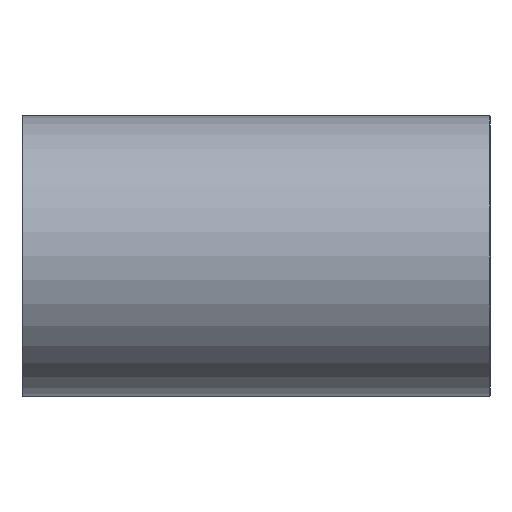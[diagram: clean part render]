
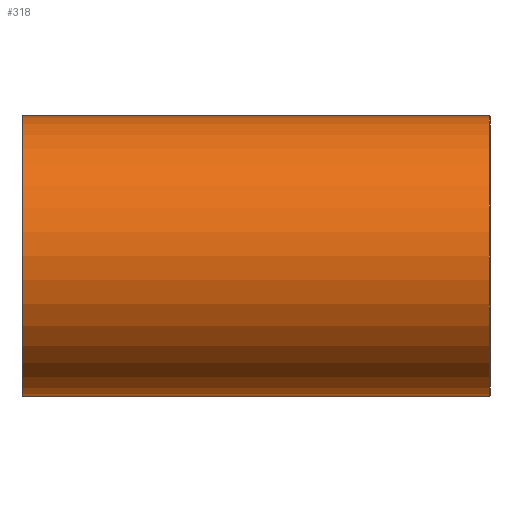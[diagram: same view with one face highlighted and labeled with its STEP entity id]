
A CAD part, front view. The second image highlights one B-rep face of the part: STEP entity #318.
In plain terms, the highlighted cylindrical face has radius 30.275 mm (diameter 60.55 mm), a full revolution.
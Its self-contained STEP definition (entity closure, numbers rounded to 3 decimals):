
#193=CARTESIAN_POINT('',(50.3,30.275,0.));
#194=VERTEX_POINT('',#193);
#195=CARTESIAN_POINT('',(50.3,0.0,0.0));
#196=DIRECTION('',(1.0,0.0,0.0));
#197=DIRECTION('',(0.0,-1.0,0.0));
#198=AXIS2_PLACEMENT_3D('',#195,#196,#197);
#199=CIRCLE('',#198,30.275);
#200=EDGE_CURVE('',#194,#194,#199,.T.);
#236=CARTESIAN_POINT('',(0.0,0.0,0.0));
#237=DIRECTION('',(1.0,0.0,0.0));
#238=DIRECTION('',(0.0,1.0,0.0));
#239=AXIS2_PLACEMENT_3D('',#236,#237,#238);
#240=CYLINDRICAL_SURFACE('',#239,30.275);
#241=CARTESIAN_POINT('',(-50.3,30.275,0.));
#242=VERTEX_POINT('',#241);
#243=CARTESIAN_POINT('',(-50.3,0.0,0.0));
#244=DIRECTION('',(-1.0,0.0,0.0));
#245=DIRECTION('',(0.0,-1.0,0.0));
#246=AXIS2_PLACEMENT_3D('',#243,#244,#245);
#247=CIRCLE('',#246,30.275);
#248=EDGE_CURVE('',#242,#242,#247,.T.);
#249=ORIENTED_EDGE('',*,*,#248,.F.);
#250=EDGE_LOOP('',(#249));
#251=FACE_OUTER_BOUND('',#250,.T.);
#252=CARTESIAN_POINT('',(0.,28.651,9.781));
#253=VERTEX_POINT('',#252);
#254=CARTESIAN_POINT('',(0.,28.651,9.781));
#255=CARTESIAN_POINT('',(0.,28.651,9.781));
#256=CARTESIAN_POINT('',(0.,28.651,9.781));
#257=CARTESIAN_POINT('',(0.,28.651,9.781));
#258=CARTESIAN_POINT('',(0.21,28.651,9.781));
#259=CARTESIAN_POINT('',(1.053,28.658,9.761));
#260=CARTESIAN_POINT('',(2.317,28.712,9.604));
#261=CARTESIAN_POINT('',(3.727,28.829,9.249));
#262=CARTESIAN_POINT('',(4.6,28.928,8.933));
#263=CARTESIAN_POINT('',(5.35,29.026,8.607));
#264=CARTESIAN_POINT('',(6.076,29.132,8.246));
#265=CARTESIAN_POINT('',(7.35,29.348,7.46));
#266=CARTESIAN_POINT('',(8.324,29.55,6.616));
#267=CARTESIAN_POINT('',(9.092,29.724,5.755));
#268=CARTESIAN_POINT('',(9.566,29.836,5.16));
#269=CARTESIAN_POINT('',(10.128,29.976,4.281));
#270=CARTESIAN_POINT('',(10.495,30.073,3.517));
#271=CARTESIAN_POINT('',(10.764,30.145,2.821));
#272=CARTESIAN_POINT('',(11.099,30.236,1.766));
#273=CARTESIAN_POINT('',(11.283,30.289,0.38));
#274=CARTESIAN_POINT('',(11.188,30.262,-1.097));
#275=CARTESIAN_POINT('',(10.907,30.184,-2.54));
#276=CARTESIAN_POINT('',(10.388,30.043,-3.829));
#277=CARTESIAN_POINT('',(9.604,29.845,-5.115));
#278=CARTESIAN_POINT('',(8.82,29.658,-6.118));
#279=CARTESIAN_POINT('',(7.673,29.414,-7.194));
#280=CARTESIAN_POINT('',(6.374,29.176,-8.098));
#281=CARTESIAN_POINT('',(4.918,28.96,-8.835));
#282=CARTESIAN_POINT('',(3.348,28.788,-9.375));
#283=CARTESIAN_POINT('',(1.708,28.678,-9.705));
#284=CARTESIAN_POINT('',(0.002,28.639,-9.818));
#285=CARTESIAN_POINT('',(-1.679,28.676,-9.708));
#286=CARTESIAN_POINT('',(-3.335,28.787,-9.379));
#287=CARTESIAN_POINT('',(-4.647,28.93,-8.928));
#288=CARTESIAN_POINT('',(-5.628,29.065,-8.476));
#289=CARTESIAN_POINT('',(-6.574,29.213,-7.958));
#290=CARTESIAN_POINT('',(-7.451,29.373,-7.349));
#291=CARTESIAN_POINT('',(-8.239,29.534,-6.663));
#292=CARTESIAN_POINT('',(-8.962,29.692,-5.933));
#293=CARTESIAN_POINT('',(-9.754,29.881,-4.927));
#294=CARTESIAN_POINT('',(-10.489,30.07,-3.604));
#295=CARTESIAN_POINT('',(-10.988,30.206,-2.208));
#296=CARTESIAN_POINT('',(-11.203,30.266,-0.984));
#297=CARTESIAN_POINT('',(-11.245,30.278,-0.001));
#298=CARTESIAN_POINT('',(-11.204,30.266,0.975));
#299=CARTESIAN_POINT('',(-10.993,30.207,2.195));
#300=CARTESIAN_POINT('',(-10.489,30.07,3.606));
#301=CARTESIAN_POINT('',(-9.761,29.882,4.916));
#302=CARTESIAN_POINT('',(-8.888,29.675,6.029));
#303=CARTESIAN_POINT('',(-7.957,29.474,6.933));
#304=CARTESIAN_POINT('',(-6.72,29.234,7.898));
#305=CARTESIAN_POINT('',(-5.284,29.005,8.686));
#306=CARTESIAN_POINT('',(-3.739,28.83,9.245));
#307=CARTESIAN_POINT('',(-2.117,28.695,9.656));
#308=CARTESIAN_POINT('',(-0.841,28.651,9.781));
#309=CARTESIAN_POINT('',(0.,28.651,9.781));
#310=B_SPLINE_CURVE_WITH_KNOTS('',3,(#254,#255,#256,#257,#258,#259,#260,#261,#262,#263,#264,#265,#266,#267,#268,#269,#270,#271,#272,#273,#274,#275,#276,#277,#278,#279,#280,#281,#282,#283,#284,#285,#286,#287,#288,#289,#290,#291,#292,#293,#294,#295,#296,#297,#298,#299,#300,#301,#302,#303,#304,#305,#306,#307,#308,#309),.UNSPECIFIED.,.T.,.U.,(4,3,1,1,1,1,1,1,1,1,1,1,1,1,1,1,1,1,1,1,1,1,1,1,1,1,1,1,1,1,1,1,1,1,1,1,1,1,1,1,1,1,1,1,1,1,1,1,1,1,1,4),(-4.074,-4.074,-4.038,-3.928,-3.856,-3.783,-3.765,-3.71,-3.637,-3.492,-3.474,-3.419,-3.346,-3.274,-3.255,-3.201,-3.055,-2.983,-2.91,-2.764,-2.716,-2.619,-2.522,-2.425,-2.328,-2.231,-2.134,-2.037,-1.94,-1.843,-1.746,-1.697,-1.649,-1.552,-1.503,-1.455,-1.358,-1.261,-1.164,-1.067,-1.018,-0.97,-0.873,-0.776,-0.679,-0.582,-0.509,-0.436,-0.291,-0.218,-0.145,0.),.UNSPECIFIED.);
#311=EDGE_CURVE('',#253,#253,#310,.T.);
#312=ORIENTED_EDGE('',*,*,#311,.F.);
#313=EDGE_LOOP('',(#312));
#314=FACE_BOUND('',#313,.T.);
#315=ORIENTED_EDGE('',*,*,#200,.F.);
#316=EDGE_LOOP('',(#315));
#317=FACE_BOUND('',#316,.T.);
#318=ADVANCED_FACE('',(#251,#314,#317),#240,.T.);
